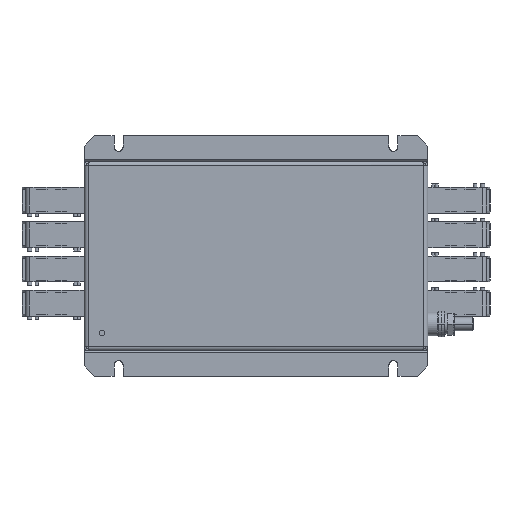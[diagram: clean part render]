
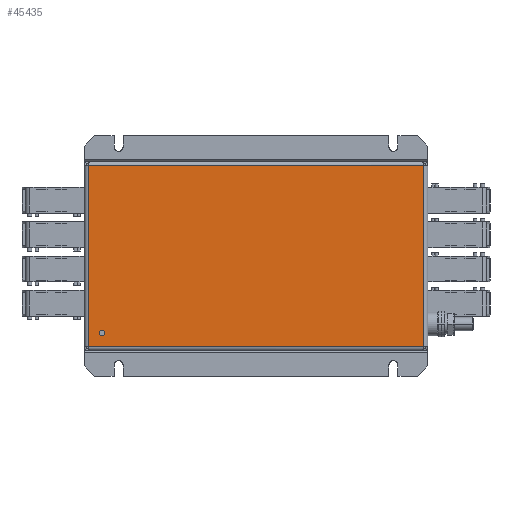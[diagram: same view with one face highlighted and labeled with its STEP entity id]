
A CAD part, front view. The second image highlights one B-rep face of the part: STEP entity #45435.
In plain terms, the highlighted planar face has unit normal (0, -1, 0).
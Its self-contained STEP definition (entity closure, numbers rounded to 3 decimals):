
#804 = VERTEX_POINT ( 'NONE', #34731 ) ;
#3626 = FACE_OUTER_BOUND ( 'NONE', #50183, .T. ) ;
#5409 = VECTOR ( 'NONE', #20531, 1000. ) ;
#5747 = CARTESIAN_POINT ( 'NONE',  ( 13., 0., -125. ) ) ;
#5817 = CIRCLE ( 'NONE', #45908, 2. ) ;
#6269 = CARTESIAN_POINT ( 'NONE',  ( 3., 0., -34.5 ) ) ;
#7405 = CARTESIAN_POINT ( 'NONE',  ( 247., 0., -103.5 ) ) ;
#7518 = EDGE_CURVE ( 'NONE', #8021, #48032, #30692, .T. ) ;
#8021 = VERTEX_POINT ( 'NONE', #48450 ) ;
#10307 = VERTEX_POINT ( 'NONE', #45613 ) ;
#10374 = LINE ( 'NONE', #6269, #47075 ) ;
#10526 = EDGE_CURVE ( 'NONE', #24268, #8021, #44300, .T. ) ;
#12965 = CARTESIAN_POINT ( 'NONE',  ( 186., 0., -3. ) ) ;
#16310 = EDGE_LOOP ( 'NONE', ( #28258, #33413 ) ) ;
#16321 = AXIS2_PLACEMENT_3D ( 'NONE', #37682, #33837, #26168 ) ;
#17215 = VECTOR ( 'NONE', #20417, 1000. ) ;
#17538 = DIRECTION ( 'NONE',  ( 1., 0., 0. ) ) ;
#18071 = DIRECTION ( 'NONE',  ( 0., 0., -1. ) ) ;
#18757 = PLANE ( 'NONE',  #22706 ) ;
#20417 = DIRECTION ( 'NONE',  ( -1., 0., 0. ) ) ;
#20531 = DIRECTION ( 'NONE',  ( 1., 0., 0. ) ) ;
#22706 = AXIS2_PLACEMENT_3D ( 'NONE', #45876, #38962, #31038 ) ;
#23031 = DIRECTION ( 'NONE',  ( 0., 0., 1. ) ) ;
#23431 = ORIENTED_EDGE ( 'NONE', *, *, #32203, .T. ) ;
#24106 = CARTESIAN_POINT ( 'NONE',  ( 64., 0., -135. ) ) ;
#24268 = VERTEX_POINT ( 'NONE', #49282 ) ;
#26168 = DIRECTION ( 'NONE',  ( 1., 0., 0. ) ) ;
#26678 = FACE_BOUND ( 'NONE', #16310, .T. ) ;
#27837 = LINE ( 'NONE', #12965, #17215 ) ;
#28258 = ORIENTED_EDGE ( 'NONE', *, *, #48544, .T. ) ;
#28497 = EDGE_CURVE ( 'NONE', #43443, #24268, #10374, .T. ) ;
#30631 = CARTESIAN_POINT ( 'NONE',  ( 3., 0., -3. ) ) ;
#30692 = LINE ( 'NONE', #7405, #36619 ) ;
#31038 = DIRECTION ( 'NONE',  ( 1., 0., 0. ) ) ;
#32203 = EDGE_CURVE ( 'NONE', #48032, #43443, #27837, .T. ) ;
#33413 = ORIENTED_EDGE ( 'NONE', *, *, #34863, .T. ) ;
#33837 = DIRECTION ( 'NONE',  ( 0., 1., 0. ) ) ;
#34731 = CARTESIAN_POINT ( 'NONE',  ( 15., 0., -125. ) ) ;
#34863 = EDGE_CURVE ( 'NONE', #10307, #804, #5817, .T. ) ;
#36619 = VECTOR ( 'NONE', #23031, 1000. ) ;
#37373 = ORIENTED_EDGE ( 'NONE', *, *, #28497, .T. ) ;
#37682 = CARTESIAN_POINT ( 'NONE',  ( 13., 0., -125. ) ) ;
#38375 = CARTESIAN_POINT ( 'NONE',  ( 247., 0., -3. ) ) ;
#38962 = DIRECTION ( 'NONE',  ( 0., 1., 0. ) ) ;
#41360 = ORIENTED_EDGE ( 'NONE', *, *, #7518, .T. ) ;
#43443 = VERTEX_POINT ( 'NONE', #30631 ) ;
#44066 = CIRCLE ( 'NONE', #16321, 2. ) ;
#44300 = LINE ( 'NONE', #24106, #5409 ) ;
#45435 = ADVANCED_FACE ( 'NONE', ( #26678, #3626 ), #18757, .F. ) ;
#45613 = CARTESIAN_POINT ( 'NONE',  ( 11., 0., -125. ) ) ;
#45876 = CARTESIAN_POINT ( 'NONE',  ( 125., 0., -69. ) ) ;
#45908 = AXIS2_PLACEMENT_3D ( 'NONE', #5747, #48752, #17538 ) ;
#46577 = ORIENTED_EDGE ( 'NONE', *, *, #10526, .T. ) ;
#47075 = VECTOR ( 'NONE', #18071, 1000. ) ;
#48032 = VERTEX_POINT ( 'NONE', #38375 ) ;
#48450 = CARTESIAN_POINT ( 'NONE',  ( 247., 0., -135. ) ) ;
#48544 = EDGE_CURVE ( 'NONE', #804, #10307, #44066, .T. ) ;
#48752 = DIRECTION ( 'NONE',  ( 0., 1., 0. ) ) ;
#49282 = CARTESIAN_POINT ( 'NONE',  ( 3., 0., -135. ) ) ;
#50183 = EDGE_LOOP ( 'NONE', ( #23431, #37373, #46577, #41360 ) ) ;
